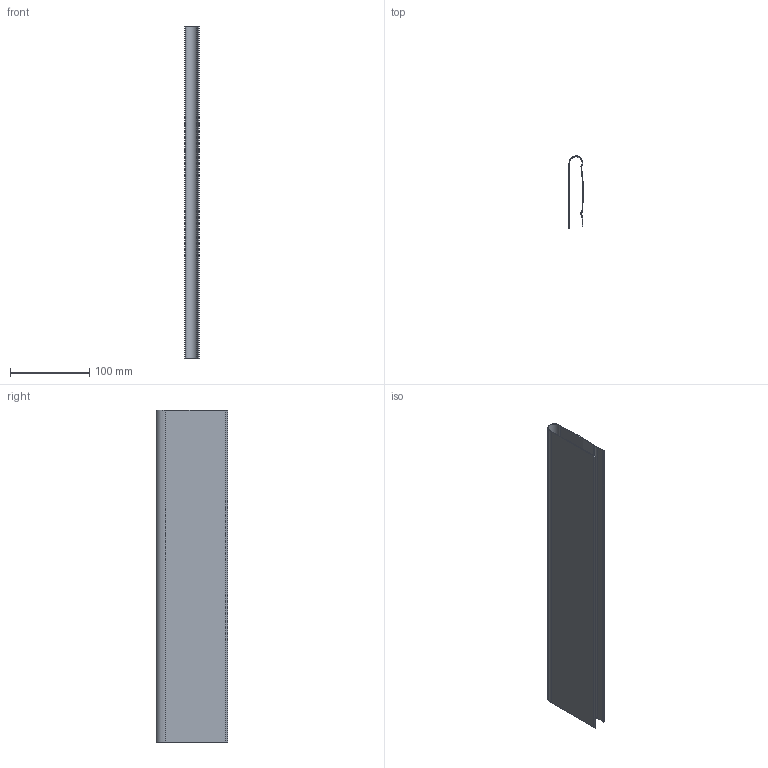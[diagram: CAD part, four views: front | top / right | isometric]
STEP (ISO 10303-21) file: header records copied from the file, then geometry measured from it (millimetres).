
FILE_DESCRIPTION (( 'STEP AP214' ), '1' );
FILE_NAME ('_Duowing NL450.step', '2010-07-14T13:30:47', ( 'grass' ), ( '' ), 'SwSTEP 2.0', 'SolidWorks 2010', '' );
FILE_SCHEMA (( 'AUTOMOTIVE_DESIGN' ));
Length unit declared in the file: millimetre
Products named in the file (1): _Duowing NL450
Bounding box: 18.64 x 90.48 x 418 mm (x, y, z)
Volume: 59182.2 mm3; surface area: 158729.3 mm2
Topology: 1 solids, 1 shells, 54 faces, 108 edges, 56 vertices
Faces by surface type: plane 36, cylinder 18
Entity records: 1378 total; most frequent: DIRECTION 254, CARTESIAN_POINT 219, ORIENTED_EDGE 216, EDGE_CURVE 108, AXIS2_PLACEMENT_3D 91, VECTOR 72, LINE 72, VERTEX_POINT 56
